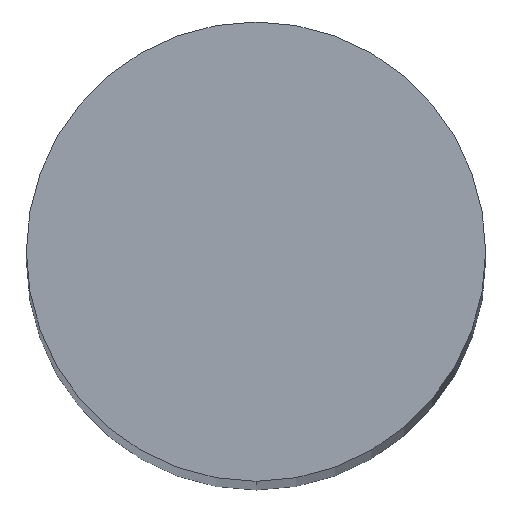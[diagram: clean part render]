
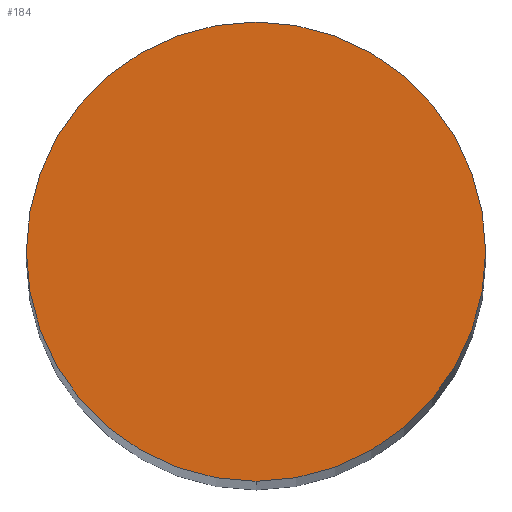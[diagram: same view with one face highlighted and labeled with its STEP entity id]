
A CAD part, top view. The second image highlights one B-rep face of the part: STEP entity #184.
In plain terms, the highlighted planar face has unit normal (0, 0, 1).
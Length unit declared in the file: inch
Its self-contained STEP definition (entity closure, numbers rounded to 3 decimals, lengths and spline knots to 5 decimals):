
#125=CARTESIAN_POINT('',(0.0,-0.0625,1.5));
#126=VERTEX_POINT('',#125);
#133=CARTESIAN_POINT('',(0.0,0.0625,1.5));
#134=VERTEX_POINT('',#133);
#135=CARTESIAN_POINT('',(0.0,0.0,1.5));
#136=DIRECTION('',(0.0,-0.0,-1.0));
#137=DIRECTION('',(0.0,1.0,-0.0));
#138=AXIS2_PLACEMENT_3D('',#135,#136,#137);
#139=CIRCLE('',#138,0.0625);
#140=EDGE_CURVE('no 1166',#126,#134,#139,.T.);
#160=CARTESIAN_POINT('',(0.0,0.0,1.5));
#161=DIRECTION('',(0.0,-0.0,-1.0));
#162=DIRECTION('',(0.0,1.0,-0.0));
#163=AXIS2_PLACEMENT_3D('',#160,#161,#162);
#164=CIRCLE('',#163,0.0625);
#165=EDGE_CURVE('no 1170',#134,#126,#164,.T.);
#175=ORIENTED_EDGE('',*,*,#140,.F.);
#176=ORIENTED_EDGE('',*,*,#165,.F.);
#177=EDGE_LOOP('',(#175,#176));
#178=FACE_OUTER_BOUND('',#177,.T.);
#179=CARTESIAN_POINT('',(0.0625,0.0,1.5));
#180=DIRECTION('',(0.0,0.0,1.0));
#181=DIRECTION('',(0.0,-1.0,0.0));
#182=AXIS2_PLACEMENT_3D('',#179,#180,#181);
#183=PLANE('',#182);
#184=ADVANCED_FACE('no 1256',(#178),#183,.T.);
